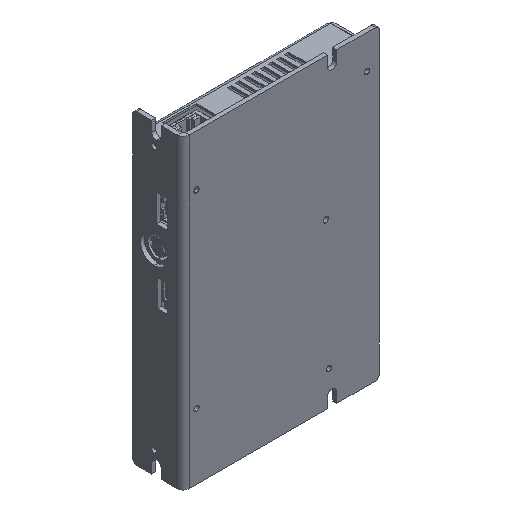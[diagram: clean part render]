
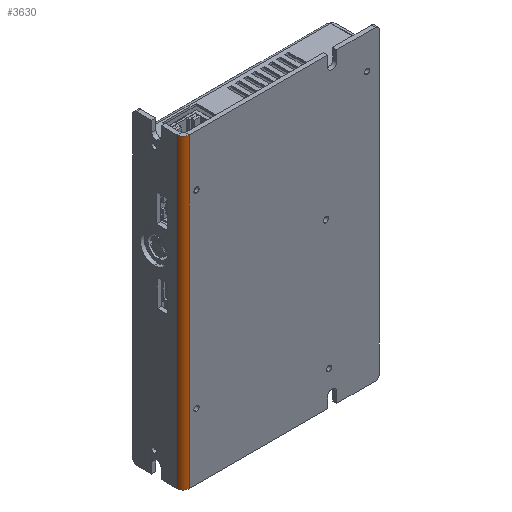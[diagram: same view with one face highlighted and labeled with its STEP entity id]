
A CAD part, isometric view. The second image highlights one B-rep face of the part: STEP entity #3630.
In plain terms, the highlighted cylindrical face has radius 3 mm (diameter 6 mm), a partial arc.
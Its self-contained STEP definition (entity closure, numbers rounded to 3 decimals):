
#989 = AXIS2_PLACEMENT_3D ( 'NONE', #41944, #35858, #46876 ) ;
#3286 = CARTESIAN_POINT ( 'NONE',  ( -2., 1., -74.5 ) ) ;
#3630 = ADVANCED_FACE ( 'NONE', ( #31644 ), #43924, .T. ) ;
#4491 = CIRCLE ( 'NONE', #38001, 3. ) ;
#8283 = DIRECTION ( 'NONE',  ( 1., 0., 0. ) ) ;
#9732 = CIRCLE ( 'NONE', #24710, 3. ) ;
#9955 = ORIENTED_EDGE ( 'NONE', *, *, #32627, .F. ) ;
#10477 = CARTESIAN_POINT ( 'NONE',  ( 1., -2., 74.5 ) ) ;
#11179 = CARTESIAN_POINT ( 'NONE',  ( 1., -2., -74.5 ) ) ;
#11765 = VERTEX_POINT ( 'NONE', #3286 ) ;
#21252 = VERTEX_POINT ( 'NONE', #10477 ) ;
#24710 = AXIS2_PLACEMENT_3D ( 'NONE', #60515, #66104, #38492 ) ;
#26556 = VECTOR ( 'NONE', #69632, 1000. ) ;
#30266 = ORIENTED_EDGE ( 'NONE', *, *, #45528, .T. ) ;
#30915 = LINE ( 'NONE', #70581, #26556 ) ;
#31644 = FACE_OUTER_BOUND ( 'NONE', #64551, .T. ) ;
#32627 = EDGE_CURVE ( 'NONE', #70621, #21252, #9732, .T. ) ;
#33734 = EDGE_CURVE ( 'NONE', #21252, #54046, #71839, .T. ) ;
#35158 = EDGE_CURVE ( 'NONE', #70621, #11765, #30915, .T. ) ;
#35858 = DIRECTION ( 'NONE',  ( 0., 0., -1. ) ) ;
#37057 = ORIENTED_EDGE ( 'NONE', *, *, #33734, .F. ) ;
#38001 = AXIS2_PLACEMENT_3D ( 'NONE', #46530, #52171, #8283 ) ;
#38492 = DIRECTION ( 'NONE',  ( 1., 0., 0. ) ) ;
#41944 = CARTESIAN_POINT ( 'NONE',  ( 1., 1., 74.5 ) ) ;
#42110 = VECTOR ( 'NONE', #54718, 1000. ) ;
#43924 = CYLINDRICAL_SURFACE ( 'NONE', #989, 3. ) ;
#45528 = EDGE_CURVE ( 'NONE', #11765, #54046, #4491, .T. ) ;
#45565 = CARTESIAN_POINT ( 'NONE',  ( -2., 1., 74.5 ) ) ;
#46530 = CARTESIAN_POINT ( 'NONE',  ( 1., 1., -74.5 ) ) ;
#46876 = DIRECTION ( 'NONE',  ( -1., 0., 0. ) ) ;
#52171 = DIRECTION ( 'NONE',  ( 0., 0., 1. ) ) ;
#54046 = VERTEX_POINT ( 'NONE', #11179 ) ;
#54519 = ORIENTED_EDGE ( 'NONE', *, *, #35158, .T. ) ;
#54718 = DIRECTION ( 'NONE',  ( 0., 0., -1. ) ) ;
#60515 = CARTESIAN_POINT ( 'NONE',  ( 1., 1., 74.5 ) ) ;
#64551 = EDGE_LOOP ( 'NONE', ( #30266, #37057, #9955, #54519 ) ) ;
#65212 = CARTESIAN_POINT ( 'NONE',  ( 1., -2., 74.5 ) ) ;
#66104 = DIRECTION ( 'NONE',  ( 0., 0., 1. ) ) ;
#69632 = DIRECTION ( 'NONE',  ( 0., 0., -1. ) ) ;
#70581 = CARTESIAN_POINT ( 'NONE',  ( -2., 1., 74.5 ) ) ;
#70621 = VERTEX_POINT ( 'NONE', #45565 ) ;
#71839 = LINE ( 'NONE', #65212, #42110 ) ;
